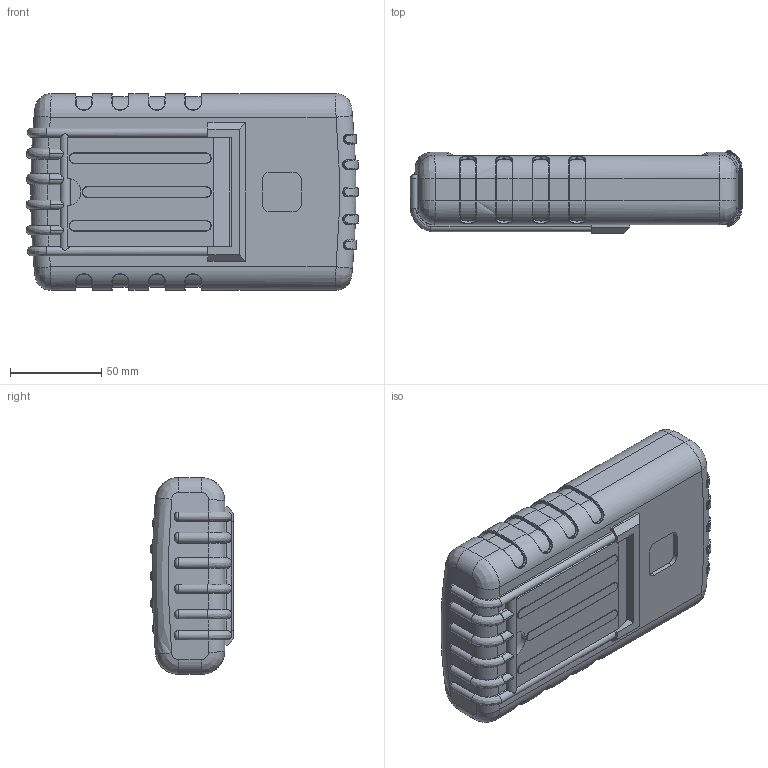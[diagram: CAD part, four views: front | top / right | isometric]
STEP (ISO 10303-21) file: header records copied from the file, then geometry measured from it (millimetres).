
FILE_DESCRIPTION (( 'STEP AP214' ), '1' );
FILE_NAME ('90-43-3A-F-BO.STEP', '2020-10-04T16:31:08', ( 'Rudy' ), ( '' ), 'SwSTEP 2.0', 'SolidWorks 2014', '' );
FILE_SCHEMA (( 'AUTOMOTIVE_DESIGN' ));
Length unit declared in the file: millimetre
Products named in the file (8): 3AAdoor; 90-Top Flush; 90-3AA; 90-43-3A-F-BO; 90 RBT; RT 90 stand; 90 PCB 3AA
Assembly tree (7 placements, depth 3):
  90-43-3A-F-BO
    90-3AA
    90-Top Flush
    3AAdoor
    90 PCB 3AA
    90 RBT
      90 RBT
      RT 90 stand
Bounding box: 182.05 x 45.61 x 108 mm (x, y, z)
Volume: 369031.2 mm3; surface area: 207218.3 mm2
Topology: 6 solids, 6 shells, 1430 faces, 3724 edges, 2319 vertices
Faces by surface type: plane 655, cylinder 411, bspline 180, torus 120, cone 46, sphere 18
Entity records: 55784 total; most frequent: CARTESIAN_POINT 21535, ORIENTED_EDGE 7412, DIRECTION 6776, EDGE_CURVE 3706, AXIS2_PLACEMENT_3D 2334, VERTEX_POINT 2311, VECTOR 2108, LINE 2108
